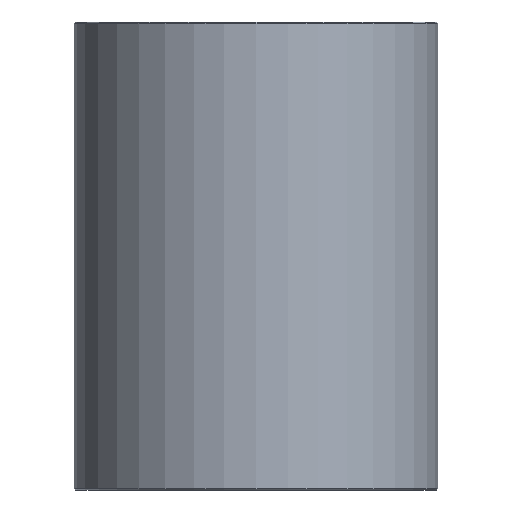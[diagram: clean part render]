
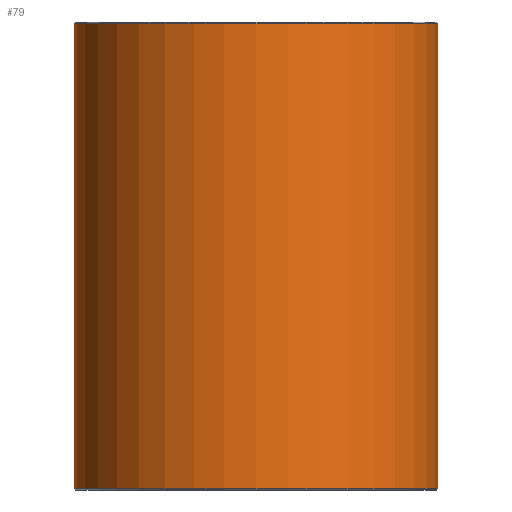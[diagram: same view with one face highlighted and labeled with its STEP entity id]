
A CAD part, front view. The second image highlights one B-rep face of the part: STEP entity #79.
In plain terms, the highlighted cylindrical face has radius 35 mm (diameter 70 mm), a full revolution.
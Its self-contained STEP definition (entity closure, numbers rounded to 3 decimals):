
#79=ADVANCED_FACE('',(#96,#97),#98,.T.);
#96=FACE_OUTER_BOUND('',#120,.T.);
#97=FACE_OUTER_BOUND('',#121,.T.);
#98=CYLINDRICAL_SURFACE('',#122,35.0);
#120=EDGE_LOOP('',(#152));
#121=EDGE_LOOP('',(#153));
#122=AXIS2_PLACEMENT_3D('',#154,#155,#156);
#152=ORIENTED_EDGE('',*,*,#178,.T.);
#153=ORIENTED_EDGE('',*,*,#177,.T.);
#154=CARTESIAN_POINT('',(0.,0.0,90.0));
#155=DIRECTION('',(0.0,0.0,-1.0));
#156=DIRECTION('',(-1.0,0.0,0.0));
#177=EDGE_CURVE('',#190,#190,#191,.T.);
#178=EDGE_CURVE('',#192,#192,#193,.F.);
#190=VERTEX_POINT('',#206);
#191=CIRCLE('',#207,35.0);
#192=VERTEX_POINT('',#208);
#193=CIRCLE('',#209,35.0);
#206=CARTESIAN_POINT('',(35.0,0.0,0.2));
#207=AXIS2_PLACEMENT_3D('',#227,#228,#229);
#208=CARTESIAN_POINT('',(35.0,0.,89.8));
#209=AXIS2_PLACEMENT_3D('',#230,#231,#232);
#227=CARTESIAN_POINT('',(0.,0.0,0.2));
#228=DIRECTION('',(0.0,0.0,1.0));
#229=DIRECTION('',(1.0,0.0,0.0));
#230=CARTESIAN_POINT('',(0.,0.0,89.8));
#231=DIRECTION('',(0.0,0.0,1.0));
#232=DIRECTION('',(1.0,0.0,0.0));
